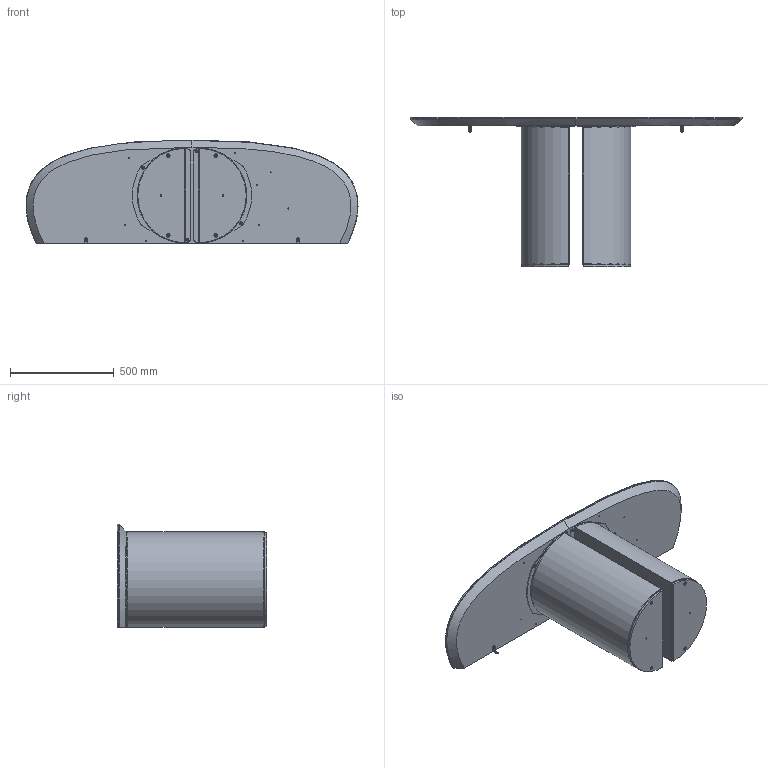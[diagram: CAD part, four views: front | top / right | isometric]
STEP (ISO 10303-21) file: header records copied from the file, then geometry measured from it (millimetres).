
FILE_DESCRIPTION (( 'STEP AP203' ), '1' );
FILE_NAME ('DR60C_Dora Console_160x50x72h_Ceramic Shaped.STEP', '2024-08-06T09:41:16', ( '' ), ( '' ), 'SwSTEP 2.0', 'SolidWorks 2022', '' );
FILE_SCHEMA (( 'CONFIG_CONTROL_DESIGN' ));
Length unit declared in the file: millimetre
Products named in the file (12): PLA000000BAS-00-PLAI BASE GREZZA; DOR000V01PST-00-DORA PIASTRA TELAIO; Assieme Basamento PLAI_Basamento per consolle; KXXXX-00-piani CERAMICA Sasso per console_160X50; TRU000XXX-01-Sottopiano per ceramica_160x50<A macchina>; M6xXXmm_M6x20mm; M8xXXmm_hex_M8X20mm; ROC000001PSx-00-CONSOLEE ROTOLO PIASTRA FISSAGGIO_STAFFA CORTA; M6xXXmm_HEX_M6x20mm HEX; DR60C_Dora Console_160x50x72h_Ceramic Shaped; PLA000000ZOC-01-PLAI ZOCCOLO DELLA BASE; Kxx-00-Piano in ceramica_160x50
Assembly tree (18 placements, depth 3):
  DR60C_Dora Console_160x50x72h_Ceramic Shaped
    KXXXX-00-piani CERAMICA Sasso per console_160X50
      Kxx-00-Piano in ceramica_160x50
      TRU000XXX-01-Sottopiano per ceramica_160x50<A macchina>
    Assieme Basamento PLAI_Basamento per consolle  x2
      PLA000000BAS-00-PLAI BASE GREZZA
      DOR000V01PST-00-DORA PIASTRA TELAIO
      PLA000000ZOC-01-PLAI ZOCCOLO DELLA BASE
      M8xXXmm_hex_M8X20mm
    M6xXXmm_M6x20mm  x2
    ROC000001PSx-00-CONSOLEE ROTOLO PIASTRA FISSAGGIO_STAFFA CORTA  x2
    M6xXXmm_HEX_M6x20mm HEX  x4
Bounding box: 1599.92 x 719 x 500 mm (x, y, z)
Volume: 34399291.5 mm3; surface area: 7262471.7 mm2
Topology: 26 solids, 26 shells, 652 faces, 1457 edges, 827 vertices
Faces by surface type: plane 282, cylinder 202, cone 138, torus 24, bspline 6
Entity records: 11486 total; most frequent: CARTESIAN_POINT 3098, DIRECTION 1572, ORIENTED_EDGE 1328, EDGE_CURVE 664, AXIS2_PLACEMENT_3D 619, VERTEX_POINT 405, EDGE_LOOP 359, LINE 334
